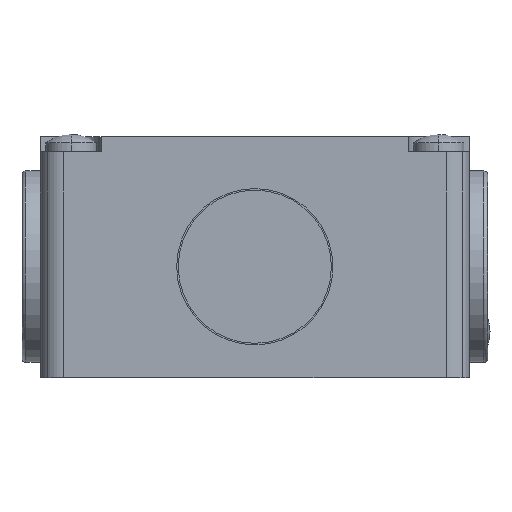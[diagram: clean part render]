
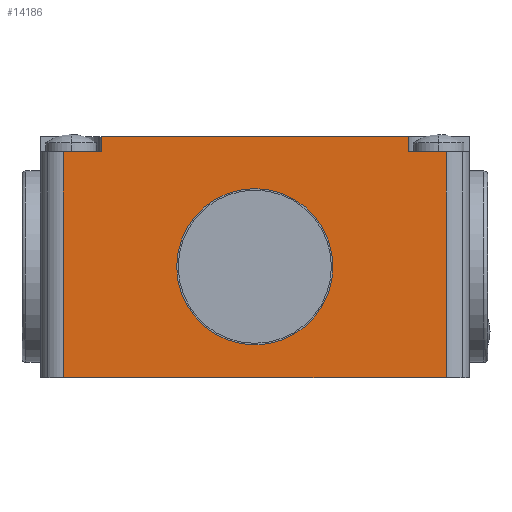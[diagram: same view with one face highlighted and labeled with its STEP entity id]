
A CAD part, front view. The second image highlights one B-rep face of the part: STEP entity #14186.
In plain terms, the highlighted planar face has unit normal (0, -1, 0).
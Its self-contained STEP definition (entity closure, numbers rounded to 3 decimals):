
#231 = LINE ( 'NONE', #2247, #10788 ) ;
#268 = ORIENTED_EDGE ( 'NONE', *, *, #15662, .F. ) ;
#284 = VERTEX_POINT ( 'NONE', #12553 ) ;
#350 = CARTESIAN_POINT ( 'NONE',  ( -28., -56.8, 15. ) ) ;
#430 = VERTEX_POINT ( 'NONE', #15531 ) ;
#578 = DIRECTION ( 'NONE',  ( 0., 0., -1. ) ) ;
#776 = VERTEX_POINT ( 'NONE', #16209 ) ;
#818 = CARTESIAN_POINT ( 'NONE',  ( 0., -56.8, 10.2 ) ) ;
#821 = DIRECTION ( 'NONE',  ( 0., 0., 1. ) ) ;
#955 = EDGE_CURVE ( 'NONE', #12676, #9274, #15961, .T. ) ;
#1025 = CARTESIAN_POINT ( 'NONE',  ( 25., -56.8, -14.5 ) ) ;
#1261 = DIRECTION ( 'NONE',  ( 0., 0., 1. ) ) ;
#1280 = AXIS2_PLACEMENT_3D ( 'NONE', #11275, #5981, #15267 ) ;
#1997 = PLANE ( 'NONE',  #1280 ) ;
#2247 = CARTESIAN_POINT ( 'NONE',  ( 28., -56.8, 15. ) ) ;
#2280 = DIRECTION ( 'NONE',  ( 0., -1., 0. ) ) ;
#2655 = LINE ( 'NONE', #4197, #9271 ) ;
#2988 = ORIENTED_EDGE ( 'NONE', *, *, #955, .T. ) ;
#3187 = ORIENTED_EDGE ( 'NONE', *, *, #17163, .T. ) ;
#3407 = EDGE_CURVE ( 'NONE', #15794, #4533, #4905, .T. ) ;
#3629 = FACE_BOUND ( 'NONE', #6172, .T. ) ;
#3901 = AXIS2_PLACEMENT_3D ( 'NONE', #10198, #2280, #11550 ) ;
#4157 = VECTOR ( 'NONE', #5483, 1000. ) ;
#4197 = CARTESIAN_POINT ( 'NONE',  ( -20., -56.8, 15. ) ) ;
#4533 = VERTEX_POINT ( 'NONE', #12764 ) ;
#4589 = LINE ( 'NONE', #12115, #4157 ) ;
#4761 = CARTESIAN_POINT ( 'NONE',  ( -25., -56.8, -14.5 ) ) ;
#4905 = LINE ( 'NONE', #12796, #8011 ) ;
#5478 = AXIS2_PLACEMENT_3D ( 'NONE', #16436, #8496, #578 ) ;
#5483 = DIRECTION ( 'NONE',  ( 0., 0., 1. ) ) ;
#5713 = VERTEX_POINT ( 'NONE', #818 ) ;
#5853 = EDGE_CURVE ( 'NONE', #430, #11847, #14077, .T. ) ;
#5894 = VECTOR ( 'NONE', #6079, 1000. ) ;
#5953 = EDGE_CURVE ( 'NONE', #284, #15794, #2655, .T. ) ;
#5981 = DIRECTION ( 'NONE',  ( 0., -1., 0. ) ) ;
#6079 = DIRECTION ( 'NONE',  ( 1., 0., 0. ) ) ;
#6158 = DIRECTION ( 'NONE',  ( 1., 0., 0. ) ) ;
#6172 = EDGE_LOOP ( 'NONE', ( #11864, #7568 ) ) ;
#6385 = ORIENTED_EDGE ( 'NONE', *, *, #5853, .F. ) ;
#6578 = ORIENTED_EDGE ( 'NONE', *, *, #5953, .F. ) ;
#6865 = DIRECTION ( 'NONE',  ( 0., 0., 1. ) ) ;
#7011 = VECTOR ( 'NONE', #1261, 1000. ) ;
#7510 = DIRECTION ( 'NONE',  ( -1., 0., 0. ) ) ;
#7568 = ORIENTED_EDGE ( 'NONE', *, *, #11411, .F. ) ;
#7612 = VERTEX_POINT ( 'NONE', #8076 ) ;
#8011 = VECTOR ( 'NONE', #6158, 1000. ) ;
#8076 = CARTESIAN_POINT ( 'NONE',  ( 20., -56.8, 15. ) ) ;
#8496 = DIRECTION ( 'NONE',  ( 0., -1., 0. ) ) ;
#8761 = LINE ( 'NONE', #350, #12737 ) ;
#9271 = VECTOR ( 'NONE', #6865, 1000. ) ;
#9274 = VERTEX_POINT ( 'NONE', #12492 ) ;
#9305 = VECTOR ( 'NONE', #821, 1000. ) ;
#9398 = EDGE_CURVE ( 'NONE', #430, #12676, #9826, .T. ) ;
#9580 = DIRECTION ( 'NONE',  ( 1., 0., 0. ) ) ;
#9826 = LINE ( 'NONE', #4761, #5894 ) ;
#10198 = CARTESIAN_POINT ( 'NONE',  ( 0., -56.8, 0. ) ) ;
#10511 = CARTESIAN_POINT ( 'NONE',  ( -25., -56.8, -14.5 ) ) ;
#10670 = FACE_OUTER_BOUND ( 'NONE', #16801, .T. ) ;
#10788 = VECTOR ( 'NONE', #7510, 1000. ) ;
#11275 = CARTESIAN_POINT ( 'NONE',  ( -25., -56.8, -14.5 ) ) ;
#11411 = EDGE_CURVE ( 'NONE', #5713, #776, #16665, .T. ) ;
#11550 = DIRECTION ( 'NONE',  ( 0., 0., -1. ) ) ;
#11847 = VERTEX_POINT ( 'NONE', #16687 ) ;
#11864 = ORIENTED_EDGE ( 'NONE', *, *, #13578, .F. ) ;
#12115 = CARTESIAN_POINT ( 'NONE',  ( 20., -56.8, 15. ) ) ;
#12492 = CARTESIAN_POINT ( 'NONE',  ( 25., -56.8, 15. ) ) ;
#12553 = CARTESIAN_POINT ( 'NONE',  ( -20., -56.8, 15. ) ) ;
#12676 = VERTEX_POINT ( 'NONE', #1025 ) ;
#12737 = VECTOR ( 'NONE', #9580, 1000. ) ;
#12764 = CARTESIAN_POINT ( 'NONE',  ( 20., -56.8, 17. ) ) ;
#12796 = CARTESIAN_POINT ( 'NONE',  ( -25., -56.8, 17. ) ) ;
#13233 = ORIENTED_EDGE ( 'NONE', *, *, #13705, .T. ) ;
#13578 = EDGE_CURVE ( 'NONE', #776, #5713, #15158, .T. ) ;
#13705 = EDGE_CURVE ( 'NONE', #9274, #7612, #231, .T. ) ;
#14077 = LINE ( 'NONE', #10511, #7011 ) ;
#14186 = ADVANCED_FACE ( 'NONE', ( #3629, #10670 ), #1997, .T. ) ;
#15158 = CIRCLE ( 'NONE', #5478, 10.2 ) ;
#15267 = DIRECTION ( 'NONE',  ( 0., 0., -1. ) ) ;
#15284 = ORIENTED_EDGE ( 'NONE', *, *, #3407, .F. ) ;
#15388 = ORIENTED_EDGE ( 'NONE', *, *, #9398, .T. ) ;
#15531 = CARTESIAN_POINT ( 'NONE',  ( -25., -56.8, -14.5 ) ) ;
#15662 = EDGE_CURVE ( 'NONE', #11847, #284, #8761, .T. ) ;
#15794 = VERTEX_POINT ( 'NONE', #16435 ) ;
#15961 = LINE ( 'NONE', #16681, #9305 ) ;
#16209 = CARTESIAN_POINT ( 'NONE',  ( 0., -56.8, -10.2 ) ) ;
#16435 = CARTESIAN_POINT ( 'NONE',  ( -20., -56.8, 17. ) ) ;
#16436 = CARTESIAN_POINT ( 'NONE',  ( 0., -56.8, 0. ) ) ;
#16665 = CIRCLE ( 'NONE', #3901, 10.2 ) ;
#16681 = CARTESIAN_POINT ( 'NONE',  ( 25., -56.8, -14.5 ) ) ;
#16687 = CARTESIAN_POINT ( 'NONE',  ( -25., -56.8, 15. ) ) ;
#16801 = EDGE_LOOP ( 'NONE', ( #15388, #2988, #13233, #3187, #15284, #6578, #268, #6385 ) ) ;
#17163 = EDGE_CURVE ( 'NONE', #7612, #4533, #4589, .T. ) ;
